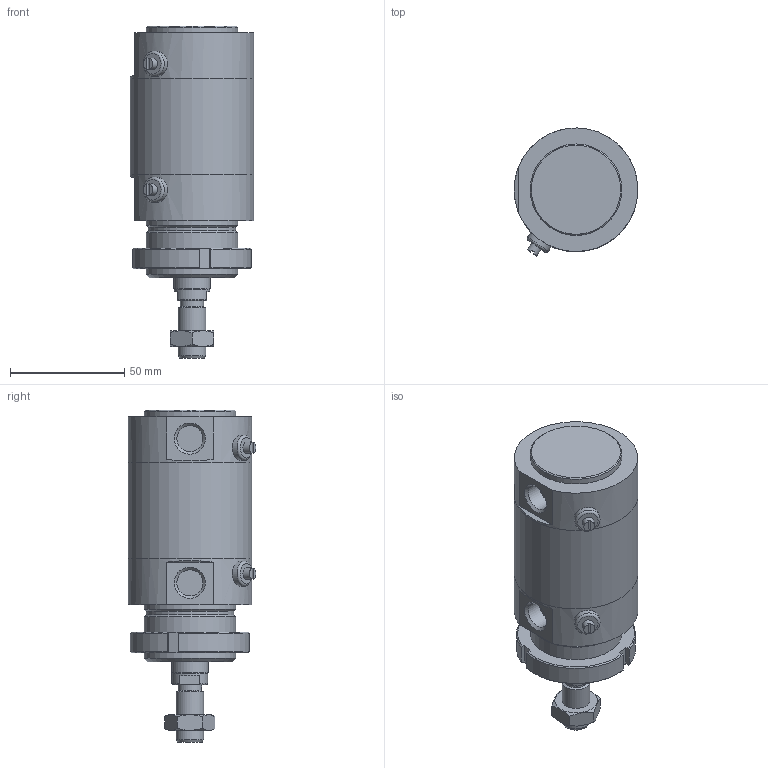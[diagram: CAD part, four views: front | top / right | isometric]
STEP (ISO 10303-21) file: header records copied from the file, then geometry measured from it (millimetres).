
FILE_DESCRIPTION(/* description */ (''),/* implementation_level */ '2;1');
FILE_NAME(/* name */ 'I:\Area Tecnica\Documenti\A-Manieri\_Inventor\12X\12X#D_###_####_#_#\12XBD_050_0000_#_#.stp',/* time_stamp */ '2015-05-04T15:12:22+02:00',/* author */ ('maniean1'),/* organization */ ('Pneumax S.p.A.'),/* preprocessor_version */ 'ST-DEVELOPER v15.2',/* originating_system */ 'Autodesk Inventor 2014',/* authorisation */ '');
FILE_SCHEMA (('AUTOMOTIVE_DESIGN { 1 0 10303 214 3 1 1 }'));
Length unit declared in the file: millimetre
Products named in the file (7): C1250_619-0000; 12X50_606; S12X50_0000; 12X_50_11; 12X50_612; G12X_050_05; 12XBD_050_0000_#_#
Bounding box: 54 x 55.88 x 145 mm (x, y, z)
Volume: 236180.2 mm3; surface area: 55848.7 mm2
Topology: 6 solids, 6 shells, 99 faces, 217 edges, 140 vertices
Faces by surface type: plane 53, cylinder 25, cone 19, torus 2
Full cylindrical faces by diameter (mm): 5 x2, 10.2 x1, 11 x2, 11.4 x2, 12 x2, 14 x1, 15.6 x1, 16 x1, 38.2 x1, 40 x4, 50 x2, 54 x3
Entity records: 2667 total; most frequent: CARTESIAN_POINT 540, DIRECTION 444, ORIENTED_EDGE 348, AXIS2_PLACEMENT_3D 188, EDGE_CURVE 174, EDGE_LOOP 152, VERTEX_POINT 132, ADVANCED_FACE 99
